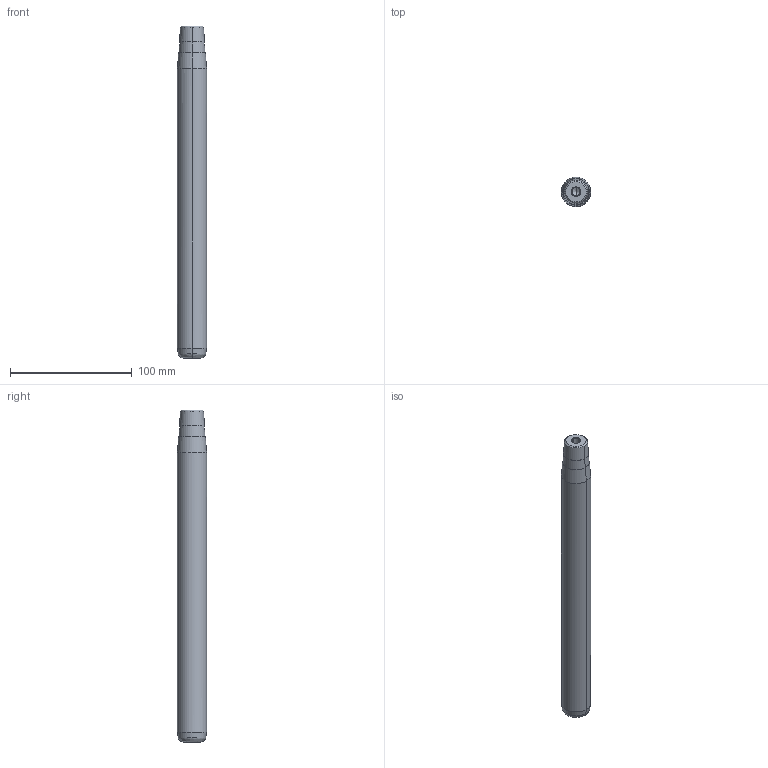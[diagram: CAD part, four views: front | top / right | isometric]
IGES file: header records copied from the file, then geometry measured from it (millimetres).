
Start section: START RECORD GO HERE.
Global section: file name: 722-24x250x273.igs; native system: DASSAULT SYSTEMES CATIA V5 R20 - www.3ds.com; preprocessor: CATIA Version 5 Release 20 ; author: Utente; organization: NB04-ASUS; date: 20210109.092730; units: millimetre
Bounding box: 24 x 24 x 273 mm (x, y, z)
Surface area: 21908.1 mm2 (no closed solid volume)
Topology: 0 solids, 0 shells, 32 faces, 192 edges, 188 vertices
Faces by surface type: revolution 30, plane 2
